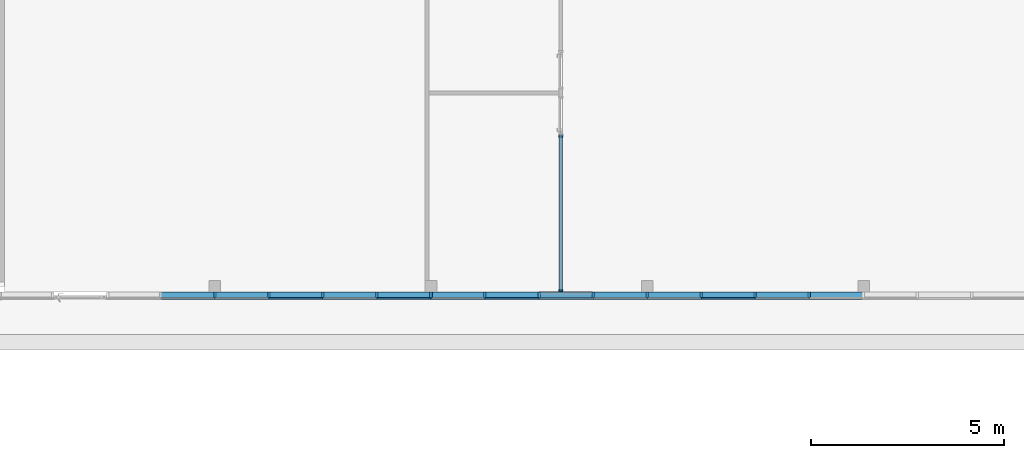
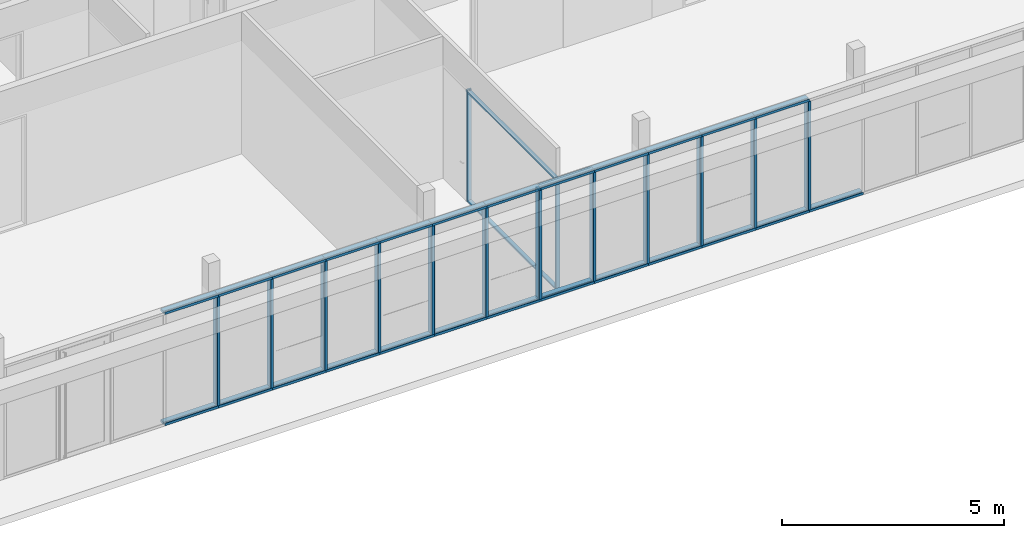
# One storey, part 25 of 240: 44 members, 2 elements without a shape of their own.
"""IFC2X3 building model written with IfcOpenShell, lengths in centimetres."""

from ifc_helpers import new_model, entity, si_unit, converted_unit, derived_unit, direction, frame, origin, origin_2d_with_axis, place, context, subcontext, project, spatial, polyline, rectangle, outline, extrude, source, transform, mapped, material, type_object, type_shapes, element, aggregate, save


model = new_model("IFC2X3")

# Units and contexts
model_context = context("Model", 3, precision=0.001, world=origin(), true_north=direction((6.12303176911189e-17, 1.0)))
body_context = subcontext(model_context, "Body", "Model", "MODEL_VIEW")
ifc_project = project(units=[si_unit("LENGTHUNIT", "METRE", prefix="CENTI"), si_unit("AREAUNIT", "SQUARE_METRE"), si_unit("VOLUMEUNIT", "CUBIC_METRE"), converted_unit("PLANEANGLEUNIT", "DEGREE", entity("IfcRatioMeasure", 0.0174532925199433), si_unit("PLANEANGLEUNIT", "RADIAN"), dimensions=[0, 0, 0, 0, 0, 0, 0]), si_unit("MASSUNIT", "GRAM", prefix="KILO"), derived_unit("MASSDENSITYUNIT", [(si_unit("MASSUNIT", "GRAM", prefix="KILO"), 1), (si_unit("LENGTHUNIT", "METRE"), -3)]), si_unit("TIMEUNIT", "SECOND"), si_unit("FREQUENCYUNIT", "HERTZ"), si_unit("THERMODYNAMICTEMPERATUREUNIT", "DEGREE_CELSIUS"), derived_unit("THERMALTRANSMITTANCEUNIT", [(si_unit("MASSUNIT", "GRAM", prefix="KILO"), 1), (si_unit("THERMODYNAMICTEMPERATUREUNIT", "KELVIN"), -1), (si_unit("TIMEUNIT", "SECOND"), -3)]), derived_unit("VOLUMETRICFLOWRATEUNIT", [(si_unit("LENGTHUNIT", "METRE"), 3), (si_unit("TIMEUNIT", "SECOND"), -1)]), si_unit("ELECTRICCURRENTUNIT", "AMPERE"), si_unit("ELECTRICVOLTAGEUNIT", "VOLT"), si_unit("POWERUNIT", "WATT"), si_unit("FORCEUNIT", "NEWTON", prefix="KILO"), si_unit("ILLUMINANCEUNIT", "LUX"), si_unit("LUMINOUSFLUXUNIT", "LUMEN"), si_unit("LUMINOUSINTENSITYUNIT", "CANDELA"), derived_unit("USERDEFINED", [(si_unit("MASSUNIT", "GRAM", prefix="KILO"), -1), (si_unit("LENGTHUNIT", "METRE"), -2), (si_unit("TIMEUNIT", "SECOND"), 3), (si_unit("LUMINOUSFLUXUNIT", "LUMEN"), 1)]), derived_unit("LINEARVELOCITYUNIT", [(si_unit("LENGTHUNIT", "METRE"), 1), (si_unit("TIMEUNIT", "SECOND"), -1)]), si_unit("PRESSUREUNIT", "PASCAL"), derived_unit("USERDEFINED", [(si_unit("LENGTHUNIT", "METRE"), -2), (si_unit("MASSUNIT", "GRAM", prefix="KILO"), 1), (si_unit("TIMEUNIT", "SECOND"), -2)])], contexts=[model_context])

# Site, building, storey
site_placement = place(None, frame((-2781.94577612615, 7442.24238424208, 0.0)))
site = spatial("IfcSite", under=ifc_project, at=site_placement, Name="Default", CompositionType="ELEMENT")
building_placement = place(site_placement, origin())
building = spatial("IfcBuilding", under=site, at=building_placement, CompositionType="ELEMENT")
storey_placement = place(building_placement, origin())
storey = spatial("IfcBuildingStorey", under=building, at=storey_placement, Name="N00 - COO", CompositionType="ELEMENT", Elevation=0.0)

# Curtain wall, members
curtain_wall_type_1 = type_object("IfcCurtainWallType", Name="Mur-rideau:07 - mur rideau trame 140 cm", PredefinedType="NOTDEFINED")
curtain_wall_1_placement = place(building_placement, origin())
curtain_wall_1 = element("IfcCurtainWall", 1, at=curtain_wall_1_placement, inside=storey, type_object=curtain_wall_type_1, Name="Mur-rideau:07 - mur rideau trame 140 cm", ObjectType="Mur-rideau:07 - mur rideau trame 140 cm")
ifc_material_1 = material(Name="Aluminium")
member_type_1 = type_object("IfcMemberType", Name="150 x 25mm Détails", PredefinedType="MEMBER")
shared_shape_1 = source(origin(), body_context, "Body", "SweptSolid", [
    extrude(outline(polyline([(-5.6666666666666, -3.24999999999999), (-3.66666666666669, -3.24999999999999), (-3.66666666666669, -0.868749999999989), (-0.166666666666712, -0.868749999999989), (-0.166666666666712, -3.25000000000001), (13.3333333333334, -3.25000000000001), (13.3333333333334, 3.24999999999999), (-0.16666666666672, 3.24999999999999), (-0.16666666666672, 0.868749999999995), (-3.66666666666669, 0.868749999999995), (-3.66666666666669, 3.25), (-5.6666666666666, 3.25), (-5.6666666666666, -3.24999999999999)])), frame((-3.24999999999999, -1.96666666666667, -140.0), z_axis=(0.0, 0.0, 1.0), x_axis=(0.0, -1.0, 0.0)), (0.0, 0.0, 1.0), 140.000000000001),
])
type_shapes(member_type_1, [shared_shape_1])
member_1_placement = place(building_placement, frame((-1530.299882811, -3046.51349958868, 312.5), z_axis=(1.0, 0.0, 0.0), x_axis=(0.0, 0.0, 1.0)))
member_1 = element("IfcMember", 2, at=member_1_placement, type_object=member_type_1, material=ifc_material_1, Name="Meneau rectangulaire:150 x 25mm Détails", ObjectType="Meneau rectangulaire:150 x 25mm Détails", context=body_context, shape_type="MappedRepresentation", body=[
    mapped(shared_shape_1, transform((0.0, 0.0, 0.0), scale=1.0)),
])
member_2_placement = place(building_placement, frame((-1670.299882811, -3046.51349958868, 312.5), z_axis=(1.0, 0.0, 0.0), x_axis=(0.0, 0.0, 1.0)))
member_2 = element("IfcMember", 3, at=member_2_placement, type_object=member_type_1, material=ifc_material_1, Name="Meneau rectangulaire:150 x 25mm Détails", ObjectType="Meneau rectangulaire:150 x 25mm Détails", context=body_context, shape_type="MappedRepresentation", body=[
    mapped(shared_shape_1, transform((0.0, 0.0, 0.0), scale=1.0)),
])
member_3_placement = place(building_placement, frame((-2230.299882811, -3046.51349958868, 312.5), z_axis=(1.0, 0.0, 0.0), x_axis=(0.0, 0.0, 1.0)))
member_3 = element("IfcMember", 4, at=member_3_placement, type_object=member_type_1, material=ifc_material_1, Name="Meneau rectangulaire:150 x 25mm Détails", ObjectType="Meneau rectangulaire:150 x 25mm Détails", context=body_context, shape_type="MappedRepresentation", body=[
    mapped(shared_shape_1, transform((0.0, 0.0, 0.0), scale=1.0)),
])
member_4_placement = place(building_placement, frame((-2090.299882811, -3046.51349958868, 312.5), z_axis=(1.0, 0.0, 0.0), x_axis=(0.0, 0.0, 1.0)))
member_4 = element("IfcMember", 5, at=member_4_placement, type_object=member_type_1, material=ifc_material_1, Name="Meneau rectangulaire:150 x 25mm Détails", ObjectType="Meneau rectangulaire:150 x 25mm Détails", context=body_context, shape_type="MappedRepresentation", body=[
    mapped(shared_shape_1, transform((0.0, 0.0, 0.0), scale=1.0)),
])
member_5_placement = place(building_placement, frame((-1950.299882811, -3046.51349958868, 312.5), z_axis=(1.0, 0.0, 0.0), x_axis=(0.0, 0.0, 1.0)))
member_5 = element("IfcMember", 6, at=member_5_placement, type_object=member_type_1, material=ifc_material_1, Name="Meneau rectangulaire:150 x 25mm Détails", ObjectType="Meneau rectangulaire:150 x 25mm Détails", context=body_context, shape_type="MappedRepresentation", body=[
    mapped(shared_shape_1, transform((0.0, 0.0, 0.0), scale=1.0)),
])
member_6_placement = place(building_placement, frame((-1810.299882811, -3046.51349958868, 312.5), z_axis=(1.0, 0.0, 0.0), x_axis=(0.0, 0.0, 1.0)))
member_6 = element("IfcMember", 7, at=member_6_placement, type_object=member_type_1, material=ifc_material_1, Name="Meneau rectangulaire:150 x 25mm Détails", ObjectType="Meneau rectangulaire:150 x 25mm Détails", context=body_context, shape_type="MappedRepresentation", body=[
    mapped(shared_shape_1, transform((0.0, 0.0, 0.0), scale=1.0)),
])
member_7_placement = place(building_placement, frame((-3070.299882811, -3046.51349958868, 312.5), z_axis=(1.0, 0.0, 0.0), x_axis=(0.0, 0.0, 1.0)))
member_7 = element("IfcMember", 8, at=member_7_placement, type_object=member_type_1, material=ifc_material_1, Name="Meneau rectangulaire:150 x 25mm Détails", ObjectType="Meneau rectangulaire:150 x 25mm Détails", context=body_context, shape_type="MappedRepresentation", body=[
    mapped(shared_shape_1, transform((0.0, 0.0, 0.0), scale=1.0)),
])
member_8_placement = place(building_placement, frame((-2930.299882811, -3046.51349958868, 312.5), z_axis=(1.0, 0.0, 0.0), x_axis=(0.0, 0.0, 1.0)))
member_8 = element("IfcMember", 9, at=member_8_placement, type_object=member_type_1, material=ifc_material_1, Name="Meneau rectangulaire:150 x 25mm Détails", ObjectType="Meneau rectangulaire:150 x 25mm Détails", context=body_context, shape_type="MappedRepresentation", body=[
    mapped(shared_shape_1, transform((0.0, 0.0, 0.0), scale=1.0)),
])
member_9_placement = place(building_placement, frame((-2790.299882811, -3046.51349958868, 312.5), z_axis=(1.0, 0.0, 0.0), x_axis=(0.0, 0.0, 1.0)))
member_9 = element("IfcMember", 10, at=member_9_placement, type_object=member_type_1, material=ifc_material_1, Name="Meneau rectangulaire:150 x 25mm Détails", ObjectType="Meneau rectangulaire:150 x 25mm Détails", context=body_context, shape_type="MappedRepresentation", body=[
    mapped(shared_shape_1, transform((0.0, 0.0, 0.0), scale=1.0)),
])
member_10_placement = place(building_placement, frame((-2650.299882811, -3046.51349958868, 312.5), z_axis=(1.0, 0.0, 0.0), x_axis=(0.0, 0.0, 1.0)))
member_10 = element("IfcMember", 11, at=member_10_placement, type_object=member_type_1, material=ifc_material_1, Name="Meneau rectangulaire:150 x 25mm Détails", ObjectType="Meneau rectangulaire:150 x 25mm Détails", context=body_context, shape_type="MappedRepresentation", body=[
    mapped(shared_shape_1, transform((0.0, 0.0, 0.0), scale=1.0)),
])
member_type_2 = type_object("IfcMemberType", Name="150 x 25mm Détails", PredefinedType="MEMBER")
shared_shape_2 = source(origin(), body_context, "Body", "SweptSolid", [
    extrude(outline(polyline([(-5.66666666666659, -3.25), (-3.66666666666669, -3.25), (-3.66666666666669, -0.868749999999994), (-0.166666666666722, -0.868749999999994), (-0.166666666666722, -3.25000000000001), (13.3333333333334, -3.24999999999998), (13.3333333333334, 3.25000000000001), (-0.166666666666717, 3.25000000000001), (-0.166666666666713, 0.868749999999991), (-3.66666666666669, 0.868749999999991), (-3.66666666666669, 3.24999999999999), (-5.66666666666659, 3.24999999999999), (-5.66666666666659, -3.25)])), frame((-3.24999999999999, -1.96666666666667, -140.0), z_axis=(0.0, 0.0, 1.0), x_axis=(0.0, -1.0, 0.0)), (0.0, 0.0, 1.0), 140.000000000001),
])
type_shapes(member_type_2, [shared_shape_2])
member_11_placement = place(building_placement, frame((-1530.299882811, -3046.51349958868, 0.0), z_axis=(-1.0, 0.0, 0.0), x_axis=(0.0, 0.0, -1.0)))
member_11 = element("IfcMember", 12, at=member_11_placement, type_object=member_type_2, material=ifc_material_1, Name="Meneau rectangulaire:150 x 25mm Détails", ObjectType="Meneau rectangulaire:150 x 25mm Détails", context=body_context, shape_type="MappedRepresentation", body=[
    mapped(shared_shape_2, transform((0.0, 0.0, 0.0), scale=1.0)),
])
member_12_placement = place(building_placement, frame((-1670.299882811, -3046.51349958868, 0.0), z_axis=(-1.0, 0.0, 0.0), x_axis=(0.0, 0.0, -1.0)))
member_12 = element("IfcMember", 13, at=member_12_placement, type_object=member_type_2, material=ifc_material_1, Name="Meneau rectangulaire:150 x 25mm Détails", ObjectType="Meneau rectangulaire:150 x 25mm Détails", context=body_context, shape_type="MappedRepresentation", body=[
    mapped(shared_shape_2, transform((0.0, 0.0, 0.0), scale=1.0)),
])
member_13_placement = place(building_placement, frame((-3070.299882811, -3046.51349958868, 0.0), z_axis=(-1.0, 0.0, 0.0), x_axis=(0.0, 0.0, -1.0)))
member_13 = element("IfcMember", 14, at=member_13_placement, type_object=member_type_2, material=ifc_material_1, Name="Meneau rectangulaire:150 x 25mm Détails", ObjectType="Meneau rectangulaire:150 x 25mm Détails", context=body_context, shape_type="MappedRepresentation", body=[
    mapped(shared_shape_2, transform((0.0, 0.0, 0.0), scale=1.0)),
])
member_14_placement = place(building_placement, frame((-2930.299882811, -3046.51349958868, 0.0), z_axis=(-1.0, 0.0, 0.0), x_axis=(0.0, 0.0, -1.0)))
member_14 = element("IfcMember", 15, at=member_14_placement, type_object=member_type_2, material=ifc_material_1, Name="Meneau rectangulaire:150 x 25mm Détails", ObjectType="Meneau rectangulaire:150 x 25mm Détails", context=body_context, shape_type="MappedRepresentation", body=[
    mapped(shared_shape_2, transform((0.0, 0.0, 0.0), scale=1.0)),
])
member_15_placement = place(building_placement, frame((-2790.299882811, -3046.51349958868, 0.0), z_axis=(-1.0, 0.0, 0.0), x_axis=(0.0, 0.0, -1.0)))
member_15 = element("IfcMember", 16, at=member_15_placement, type_object=member_type_2, material=ifc_material_1, Name="Meneau rectangulaire:150 x 25mm Détails", ObjectType="Meneau rectangulaire:150 x 25mm Détails", context=body_context, shape_type="MappedRepresentation", body=[
    mapped(shared_shape_2, transform((0.0, 0.0, 0.0), scale=1.0)),
])
member_16_placement = place(building_placement, frame((-2090.299882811, -3046.51349958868, 0.0), z_axis=(-1.0, 0.0, 0.0), x_axis=(0.0, 0.0, -1.0)))
member_16 = element("IfcMember", 17, at=member_16_placement, type_object=member_type_2, material=ifc_material_1, Name="Meneau rectangulaire:150 x 25mm Détails", ObjectType="Meneau rectangulaire:150 x 25mm Détails", context=body_context, shape_type="MappedRepresentation", body=[
    mapped(shared_shape_2, transform((0.0, 0.0, 0.0), scale=1.0)),
])
member_17_placement = place(building_placement, frame((-1950.299882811, -3046.51349958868, 0.0), z_axis=(-1.0, 0.0, 0.0), x_axis=(0.0, 0.0, -1.0)))
member_17 = element("IfcMember", 18, at=member_17_placement, type_object=member_type_2, material=ifc_material_1, Name="Meneau rectangulaire:150 x 25mm Détails", ObjectType="Meneau rectangulaire:150 x 25mm Détails", context=body_context, shape_type="MappedRepresentation", body=[
    mapped(shared_shape_2, transform((0.0, 0.0, 0.0), scale=1.0)),
])
member_18_placement = place(building_placement, frame((-1810.299882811, -3046.51349958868, 0.0), z_axis=(-1.0, 0.0, 0.0), x_axis=(0.0, 0.0, -1.0)))
member_18 = element("IfcMember", 19, at=member_18_placement, type_object=member_type_2, material=ifc_material_1, Name="Meneau rectangulaire:150 x 25mm Détails", ObjectType="Meneau rectangulaire:150 x 25mm Détails", context=body_context, shape_type="MappedRepresentation", body=[
    mapped(shared_shape_2, transform((0.0, 0.0, 0.0), scale=1.0)),
])
member_19_placement = place(building_placement, frame((-2370.299882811, -3046.51349958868, 0.0), z_axis=(-1.0, 0.0, 0.0), x_axis=(0.0, 0.0, -1.0)))
member_19 = element("IfcMember", 20, at=member_19_placement, type_object=member_type_2, material=ifc_material_1, Name="Meneau rectangulaire:150 x 25mm Détails", ObjectType="Meneau rectangulaire:150 x 25mm Détails", context=body_context, shape_type="MappedRepresentation", body=[
    mapped(shared_shape_2, transform((0.0, 0.0, 0.0), scale=1.0)),
])
member_20_placement = place(building_placement, frame((-3210.299882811, -3046.51349958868, 0.0), z_axis=(-1.0, 0.0, 0.0), x_axis=(0.0, 0.0, -1.0)))
member_20 = element("IfcMember", 21, at=member_20_placement, type_object=member_type_2, material=ifc_material_1, Name="Meneau rectangulaire:150 x 25mm Détails", ObjectType="Meneau rectangulaire:150 x 25mm Détails", context=body_context, shape_type="MappedRepresentation", body=[
    mapped(shared_shape_2, transform((0.0, 0.0, 0.0), scale=1.0)),
])
member_21_placement = place(building_placement, frame((-2230.299882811, -3046.51349958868, 0.0), z_axis=(-1.0, 0.0, 0.0), x_axis=(0.0, 0.0, -1.0)))
member_21 = element("IfcMember", 22, at=member_21_placement, type_object=member_type_2, material=ifc_material_1, Name="Meneau rectangulaire:150 x 25mm Détails", ObjectType="Meneau rectangulaire:150 x 25mm Détails", context=body_context, shape_type="MappedRepresentation", body=[
    mapped(shared_shape_2, transform((0.0, 0.0, 0.0), scale=1.0)),
])
member_type_3 = type_object("IfcMemberType", Name="150 x 25mm Détails", PredefinedType="MEMBER")
shared_shape_3 = source(origin(), body_context, "Body", "SweptSolid", [
    extrude(outline(polyline([(-5.6666666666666, -3.24999999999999), (-3.66666666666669, -3.24999999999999), (-3.66666666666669, -0.86874999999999), (-0.166666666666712, -0.86874999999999), (-0.166666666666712, -3.25000000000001), (13.3333333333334, -3.25000000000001), (13.3333333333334, 3.24999999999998), (-0.16666666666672, 3.24999999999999), (-0.16666666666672, 0.868749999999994), (-3.66666666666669, 0.868749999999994), (-3.66666666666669, 3.25), (-5.6666666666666, 3.25), (-5.6666666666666, -3.24999999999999)])), frame((0.0, -1.96666666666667, -299.5), z_axis=(0.0, 0.0, 1.0), x_axis=(0.0, -1.0, 0.0)), (0.0, 0.0, 1.0), 299.5),
])
type_shapes(member_type_3, [shared_shape_3])
member_22_placement = place(building_placement, frame((-1530.299882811, -3046.51349958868, 6.49999999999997), z_axis=(0.0, 0.0, -1.0), x_axis=(1.0, 0.0, 0.0)))
member_22 = element("IfcMember", 23, at=member_22_placement, type_object=member_type_3, material=ifc_material_1, Name="Meneau rectangulaire:150 x 25mm Détails", ObjectType="Meneau rectangulaire:150 x 25mm Détails", context=body_context, shape_type="MappedRepresentation", body=[
    mapped(shared_shape_3, transform((0.0, 0.0, 0.0), scale=1.0)),
])
member_23_placement = place(building_placement, frame((-1670.299882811, -3046.51349958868, 6.49999999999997), z_axis=(0.0, 0.0, -1.0), x_axis=(1.0, 0.0, 0.0)))
member_23 = element("IfcMember", 24, at=member_23_placement, type_object=member_type_3, material=ifc_material_1, Name="Meneau rectangulaire:150 x 25mm Détails", ObjectType="Meneau rectangulaire:150 x 25mm Détails", context=body_context, shape_type="MappedRepresentation", body=[
    mapped(shared_shape_3, transform((0.0, 0.0, 0.0), scale=1.0)),
])
member_24_placement = place(building_placement, frame((-2230.299882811, -3046.51349958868, 6.49999999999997), z_axis=(0.0, 0.0, -1.0), x_axis=(1.0, 0.0, 0.0)))
member_24 = element("IfcMember", 25, at=member_24_placement, type_object=member_type_3, material=ifc_material_1, Name="Meneau rectangulaire:150 x 25mm Détails", ObjectType="Meneau rectangulaire:150 x 25mm Détails", context=body_context, shape_type="MappedRepresentation", body=[
    mapped(shared_shape_3, transform((0.0, 0.0, 0.0), scale=1.0)),
])
member_25_placement = place(building_placement, frame((-2509.99987760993, -3046.51349958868, 6.49999999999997), z_axis=(0.0, 0.0, -1.0), x_axis=(1.0, 0.0, 0.0)))
member_25 = element("IfcMember", 26, at=member_25_placement, type_object=member_type_3, material=ifc_material_1, Name="Meneau rectangulaire:150 x 25mm Détails", ObjectType="Meneau rectangulaire:150 x 25mm Détails", context=body_context, shape_type="MappedRepresentation", body=[
    mapped(shared_shape_3, transform((0.0, 0.0, 0.0), scale=1.0)),
])
member_26_placement = place(building_placement, frame((-1810.299882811, -3046.51349958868, 6.49999999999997), z_axis=(0.0, 0.0, -1.0), x_axis=(1.0, 0.0, 0.0)))
member_26 = element("IfcMember", 27, at=member_26_placement, type_object=member_type_3, material=ifc_material_1, Name="Meneau rectangulaire:150 x 25mm Détails", ObjectType="Meneau rectangulaire:150 x 25mm Détails", context=body_context, shape_type="MappedRepresentation", body=[
    mapped(shared_shape_3, transform((0.0, 0.0, 0.0), scale=1.0)),
])
member_27_placement = place(building_placement, frame((-1950.299882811, -3046.51349958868, 6.49999999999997), z_axis=(0.0, 0.0, -1.0), x_axis=(1.0, 0.0, 0.0)))
member_27 = element("IfcMember", 28, at=member_27_placement, type_object=member_type_3, material=ifc_material_1, Name="Meneau rectangulaire:150 x 25mm Détails", ObjectType="Meneau rectangulaire:150 x 25mm Détails", context=body_context, shape_type="MappedRepresentation", body=[
    mapped(shared_shape_3, transform((0.0, 0.0, 0.0), scale=1.0)),
])
member_28_placement = place(building_placement, frame((-2090.299882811, -3046.51349958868, 6.49999999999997), z_axis=(0.0, 0.0, -1.0), x_axis=(1.0, 0.0, 0.0)))
member_28 = element("IfcMember", 29, at=member_28_placement, type_object=member_type_3, material=ifc_material_1, Name="Meneau rectangulaire:150 x 25mm Détails", ObjectType="Meneau rectangulaire:150 x 25mm Détails", context=body_context, shape_type="MappedRepresentation", body=[
    mapped(shared_shape_3, transform((0.0, 0.0, 0.0), scale=1.0)),
])
member_29_placement = place(building_placement, frame((-2230.299882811, -3046.51349958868, 6.49999999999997), z_axis=(0.0, 0.0, -1.0), x_axis=(1.0, 0.0, 0.0)))
member_29 = element("IfcMember", 30, at=member_29_placement, type_object=member_type_3, material=ifc_material_1, Name="Meneau rectangulaire:150 x 25mm Détails", ObjectType="Meneau rectangulaire:150 x 25mm Détails", context=body_context, shape_type="MappedRepresentation", body=[
    mapped(shared_shape_3, transform((0.0, 0.0, 0.0), scale=1.0)),
])
member_30_placement = place(building_placement, frame((-2370.299882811, -3046.51349958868, 6.49999999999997), z_axis=(0.0, 0.0, -1.0), x_axis=(1.0, 0.0, 0.0)))
member_30 = element("IfcMember", 31, at=member_30_placement, type_object=member_type_3, material=ifc_material_1, Name="Meneau rectangulaire:150 x 25mm Détails", ObjectType="Meneau rectangulaire:150 x 25mm Détails", context=body_context, shape_type="MappedRepresentation", body=[
    mapped(shared_shape_3, transform((0.0, 0.0, 0.0), scale=1.0)),
])
member_31_placement = place(building_placement, frame((-2510.299882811, -3046.51349958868, 6.49999999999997), z_axis=(0.0, 0.0, -1.0), x_axis=(1.0, 0.0, 0.0)))
member_31 = element("IfcMember", 32, at=member_31_placement, type_object=member_type_3, material=ifc_material_1, Name="Meneau rectangulaire:150 x 25mm Détails", ObjectType="Meneau rectangulaire:150 x 25mm Détails", context=body_context, shape_type="MappedRepresentation", body=[
    mapped(shared_shape_3, transform((0.0, 0.0, 0.0), scale=1.0)),
])
member_32_placement = place(building_placement, frame((-2790.299882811, -3046.51349958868, 6.49999999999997), z_axis=(0.0, 0.0, -1.0), x_axis=(1.0, 0.0, 0.0)))
member_32 = element("IfcMember", 33, at=member_32_placement, type_object=member_type_3, material=ifc_material_1, Name="Meneau rectangulaire:150 x 25mm Détails", ObjectType="Meneau rectangulaire:150 x 25mm Détails", context=body_context, shape_type="MappedRepresentation", body=[
    mapped(shared_shape_3, transform((0.0, 0.0, 0.0), scale=1.0)),
])
member_33_placement = place(building_placement, frame((-2930.299882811, -3046.51349958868, 6.49999999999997), z_axis=(0.0, 0.0, -1.0), x_axis=(1.0, 0.0, 0.0)))
member_33 = element("IfcMember", 34, at=member_33_placement, type_object=member_type_3, material=ifc_material_1, Name="Meneau rectangulaire:150 x 25mm Détails", ObjectType="Meneau rectangulaire:150 x 25mm Détails", context=body_context, shape_type="MappedRepresentation", body=[
    mapped(shared_shape_3, transform((0.0, 0.0, 0.0), scale=1.0)),
])
member_34_placement = place(building_placement, frame((-3070.299882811, -3046.51349958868, 6.49999999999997), z_axis=(0.0, 0.0, -1.0), x_axis=(1.0, 0.0, 0.0)))
member_34 = element("IfcMember", 35, at=member_34_placement, type_object=member_type_3, material=ifc_material_1, Name="Meneau rectangulaire:150 x 25mm Détails", ObjectType="Meneau rectangulaire:150 x 25mm Détails", context=body_context, shape_type="MappedRepresentation", body=[
    mapped(shared_shape_3, transform((0.0, 0.0, 0.0), scale=1.0)),
])
member_35_placement = place(building_placement, frame((-2650.299882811, -3046.51349958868, 6.49999999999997), z_axis=(0.0, 0.0, -1.0), x_axis=(1.0, 0.0, 0.0)))
member_35 = element("IfcMember", 36, at=member_35_placement, type_object=member_type_3, material=ifc_material_1, Name="Meneau rectangulaire:150 x 25mm Détails", ObjectType="Meneau rectangulaire:150 x 25mm Détails", context=body_context, shape_type="MappedRepresentation", body=[
    mapped(shared_shape_3, transform((0.0, 0.0, 0.0), scale=1.0)),
])

# Curtain wall, member
curtain_wall_type_2 = type_object("IfcCurtainWallType", PredefinedType="NOTDEFINED")
curtain_wall_2_placement = place(building_placement, origin())
curtain_wall_2 = element("IfcCurtainWall", 37, at=curtain_wall_2_placement, inside=storey, type_object=curtain_wall_type_2)
ifc_material_2 = material(Name="Plastique, blanc opaque")
member_type_4 = type_object("IfcMemberType", Name="100 x 50mm", PredefinedType="MEMBER")
shared_shape_4 = source(origin(), body_context, "Body", "SweptSolid", [
    extrude(rectangle(XDim=10.0, YDim=5.0, at=origin_2d_with_axis()), frame((-2.5, 0.0, -306.0), z_axis=(0.0, 0.0, 1.0), x_axis=(0.0, -1.0, 0.0)), (0.0, 0.0, 1.0), 306.0),
])
type_shapes(member_type_4, [shared_shape_4])
member_36_placement = place(building_placement, frame((-2174.19987968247, -3030.31349958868, 0.0), z_axis=(0.0, 0.0, -1.0), x_axis=(0.0, -1.0, 0.0)))
member_36 = element("IfcMember", 38, at=member_36_placement, type_object=member_type_4, material=ifc_material_2, Name="Meneau rectangulaire:100 x 50mm", ObjectType="Meneau rectangulaire:100 x 50mm", context=body_context, shape_type="MappedRepresentation", body=[
    mapped(shared_shape_4, transform((0.0, 0.0, 0.0), scale=1.0)),
])

# Member
member_type_5 = type_object("IfcMemberType", Name="150 x 25mm Détails", PredefinedType="MEMBER")
shared_shape_5 = source(origin(), body_context, "Body", "SweptSolid", [
    extrude(outline(polyline([(-5.66666666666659, -3.25), (-3.66666666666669, -3.25), (-3.66666666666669, -0.868749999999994), (-0.166666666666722, -0.868749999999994), (-0.166666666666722, -3.25000000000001), (13.3333333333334, -3.24999999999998), (13.3333333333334, 3.25000000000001), (-0.166666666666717, 3.25000000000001), (-0.166666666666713, 0.868749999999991), (-3.66666666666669, 0.868749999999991), (-3.66666666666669, 3.24999999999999), (-5.66666666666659, 3.24999999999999), (-5.66666666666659, -3.25)])), frame((-3.24999999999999, -1.96666666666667, -142.949994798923), z_axis=(0.0, 0.0, 1.0), x_axis=(0.0, -1.0, 0.0)), (0.0, 0.0, 1.0), 142.949994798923),
])
type_shapes(member_type_5, [shared_shape_5])
member_37_placement = place(building_placement, frame((-2513.24987760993, -3046.51349958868, 0.0), z_axis=(-1.0, 0.0, 0.0), x_axis=(0.0, 0.0, -1.0)))
member_37 = element("IfcMember", 39, at=member_37_placement, type_object=member_type_5, material=ifc_material_1, Name="Meneau rectangulaire:150 x 25mm Détails", ObjectType="Meneau rectangulaire:150 x 25mm Détails", context=body_context, shape_type="MappedRepresentation", body=[
    mapped(shared_shape_5, transform((0.0, 0.0, 0.0), scale=1.0)),
])

member_type_6 = type_object("IfcMemberType", Name="150 x 25mm Détails", PredefinedType="MEMBER")
shared_shape_6 = source(origin(), body_context, "Body", "SweptSolid", [
    extrude(outline(polyline([(-5.66666666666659, -3.25), (-3.66666666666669, -3.25), (-3.66666666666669, -0.868749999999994), (-0.166666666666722, -0.868749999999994), (-0.166666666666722, -3.25000000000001), (13.3333333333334, -3.24999999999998), (13.3333333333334, 3.25000000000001), (-0.166666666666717, 3.25000000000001), (-0.166666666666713, 0.868749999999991), (-3.66666666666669, 0.868749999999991), (-3.66666666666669, 3.24999999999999), (-5.66666666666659, 3.24999999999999), (-5.66666666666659, -3.25)])), frame((-3.24999999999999, -1.96666666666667, -143.249999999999), z_axis=(0.0, 0.0, 1.0), x_axis=(0.0, -1.0, 0.0)), (0.0, 0.0, 1.0), 143.249999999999),
])
type_shapes(member_type_6, [shared_shape_6])
member_38_placement = place(building_placement, frame((-2650.299882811, -3046.51349958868, 0.0), z_axis=(-1.0, 0.0, 0.0), x_axis=(0.0, 0.0, -1.0)))
member_38 = element("IfcMember", 40, at=member_38_placement, type_object=member_type_6, material=ifc_material_1, Name="Meneau rectangulaire:150 x 25mm Détails", ObjectType="Meneau rectangulaire:150 x 25mm Détails", context=body_context, shape_type="MappedRepresentation", body=[
    mapped(shared_shape_6, transform((0.0, 0.0, 0.0), scale=1.0)),
])

member_type_7 = type_object("IfcMemberType", Name="150 x 25mm Détails", PredefinedType="MEMBER")
shared_shape_7 = source(origin(), body_context, "Body", "SweptSolid", [
    extrude(outline(polyline([(-5.6666666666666, -3.24999999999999), (-3.66666666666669, -3.24999999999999), (-3.66666666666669, -0.868749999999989), (-0.166666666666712, -0.868749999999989), (-0.166666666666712, -3.25000000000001), (13.3333333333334, -3.25000000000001), (13.3333333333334, 3.24999999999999), (-0.16666666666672, 3.24999999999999), (-0.16666666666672, 0.868749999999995), (-3.66666666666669, 0.868749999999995), (-3.66666666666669, 3.25), (-5.6666666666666, 3.25), (-5.6666666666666, -3.24999999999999)])), frame((-3.24999999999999, -1.96666666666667, -142.949994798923), z_axis=(0.0, 0.0, 1.0), x_axis=(0.0, -1.0, 0.0)), (0.0, 0.0, 1.0), 142.949994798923),
])
type_shapes(member_type_7, [shared_shape_7])
member_39_placement = place(building_placement, frame((-2370.299882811, -3046.51349958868, 312.5), z_axis=(1.0, 0.0, 0.0), x_axis=(0.0, 0.0, 1.0)))
member_39 = element("IfcMember", 41, at=member_39_placement, type_object=member_type_7, material=ifc_material_1, Name="Meneau rectangulaire:150 x 25mm Détails", ObjectType="Meneau rectangulaire:150 x 25mm Détails", context=body_context, shape_type="MappedRepresentation", body=[
    mapped(shared_shape_7, transform((0.0, 0.0, 0.0), scale=1.0)),
])

member_type_8 = type_object("IfcMemberType", Name="150 x 25mm Détails", PredefinedType="MEMBER")
shared_shape_8 = source(origin(), body_context, "Body", "SweptSolid", [
    extrude(outline(polyline([(-5.6666666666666, -3.24999999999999), (-3.66666666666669, -3.24999999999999), (-3.66666666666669, -0.868749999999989), (-0.166666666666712, -0.868749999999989), (-0.166666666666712, -3.25000000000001), (13.3333333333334, -3.25000000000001), (13.3333333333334, 3.24999999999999), (-0.16666666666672, 3.24999999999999), (-0.16666666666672, 0.868749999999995), (-3.66666666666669, 0.868749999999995), (-3.66666666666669, 3.25), (-5.6666666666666, 3.25), (-5.6666666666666, -3.24999999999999)])), frame((-3.24999999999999, -1.96666666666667, -143.25), z_axis=(0.0, 0.0, 1.0), x_axis=(0.0, -1.0, 0.0)), (0.0, 0.0, 1.0), 143.25),
])
type_shapes(member_type_8, [shared_shape_8])
member_40_placement = place(building_placement, frame((-2507.049882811, -3046.51349958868, 312.5), z_axis=(1.0, 0.0, 0.0), x_axis=(0.0, 0.0, 1.0)))
member_40 = element("IfcMember", 42, at=member_40_placement, type_object=member_type_8, material=ifc_material_1, Name="Meneau rectangulaire:150 x 25mm Détails", ObjectType="Meneau rectangulaire:150 x 25mm Détails", context=body_context, shape_type="MappedRepresentation", body=[
    mapped(shared_shape_8, transform((0.0, 0.0, 0.0), scale=1.0)),
])

member_type_9 = type_object("IfcMemberType", Name="150 x 25mm Détails", PredefinedType="MEMBER")
shared_shape_9 = source(origin(), body_context, "Body", "SweptSolid", [
    extrude(outline(polyline([(-5.66666666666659, -3.25), (-3.66666666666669, -3.25), (-3.66666666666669, -0.868749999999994), (-0.166666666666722, -0.868749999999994), (-0.166666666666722, -3.25000000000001), (13.3333333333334, -3.24999999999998), (13.3333333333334, 3.25000000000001), (-0.166666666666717, 3.25000000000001), (-0.166666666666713, 0.868749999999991), (-3.66666666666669, 0.868749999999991), (-3.66666666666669, 3.24999999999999), (-5.66666666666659, 3.24999999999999), (-5.66666666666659, -3.25)])), frame((-3.24999999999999, -1.96666666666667, -140.049999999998), z_axis=(0.0, 0.0, 1.0), x_axis=(0.0, -1.0, 0.0)), (0.0, 0.0, 1.0), 140.049999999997),
])
type_shapes(member_type_9, [shared_shape_9])
member_41_placement = place(building_placement, frame((-2233.549882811, -3046.51349958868, 0.0), z_axis=(-1.0, 0.0, 0.0), x_axis=(0.0, 0.0, -1.0)))
member_41 = element("IfcMember", 43, at=member_41_placement, type_object=member_type_9, material=ifc_material_1, Name="Meneau rectangulaire:150 x 25mm Détails", ObjectType="Meneau rectangulaire:150 x 25mm Détails", context=body_context, shape_type="MappedRepresentation", body=[
    mapped(shared_shape_9, transform((0.0, 0.0, 0.0), scale=1.0)),
])

aggregate(curtain_wall_1, [member_11, member_22, member_1, member_2, member_12, member_23, member_3, member_24, member_37, member_25, member_13, member_14, member_15, member_38, member_4, member_5, member_6, member_39, member_16, member_17, member_18, member_7, member_8, member_9, member_10, member_40, member_19, member_26, member_27, member_28, member_29, member_30, member_31, member_32, member_33, member_34, member_35, member_41, member_20, member_21])

member_type_10 = type_object("IfcMemberType", Name="100 x 50mm", PredefinedType="MEMBER")
shared_shape_10 = source(origin(), body_context, "Body", "SweptSolid", [
    extrude(rectangle(XDim=10.0, YDim=5.0, at=origin_2d_with_axis()), frame((-2.5, 0.0, -403.656932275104), z_axis=(0.0, 0.0, 1.0), x_axis=(0.0, -1.0, 0.0)), (0.0, 0.0, 1.0), 403.656932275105),
])
type_shapes(member_type_10, [shared_shape_10])
member_42_placement = place(building_placement, frame((-2174.19987968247, -3025.31349958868, 306.0), z_axis=(0.0, -1.0, 0.0), x_axis=(0.0, 0.0, 1.0)))
member_42 = element("IfcMember", 44, at=member_42_placement, type_object=member_type_10, material=ifc_material_2, Name="Meneau rectangulaire:100 x 50mm", ObjectType="Meneau rectangulaire:100 x 50mm", context=body_context, shape_type="MappedRepresentation", body=[
    mapped(shared_shape_10, transform((0.0, 0.0, 0.0), scale=1.0)),
])

member_type_11 = type_object("IfcMemberType", Name="100 x 50mm", PredefinedType="MEMBER")
shared_shape_11 = source(origin(), body_context, "Body", "SweptSolid", [
    extrude(rectangle(XDim=10.0, YDim=5.0, at=origin_2d_with_axis()), frame((-2.5, 0.0, -395.156932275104), z_axis=(0.0, 0.0, 1.0), x_axis=(0.0, -1.0, 0.0)), (0.0, 0.0, 1.0), 395.156932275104),
])
type_shapes(member_type_11, [shared_shape_11])
member_43_placement = place(building_placement, frame((-2174.19987968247, -2630.15656731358, 0.0), z_axis=(0.0, 1.0, 0.0), x_axis=(0.0, 0.0, -1.0)))
member_43 = element("IfcMember", 45, at=member_43_placement, type_object=member_type_11, material=ifc_material_2, Name="Meneau rectangulaire:100 x 50mm", ObjectType="Meneau rectangulaire:100 x 50mm", context=body_context, shape_type="MappedRepresentation", body=[
    mapped(shared_shape_11, transform((0.0, 0.0, 0.0), scale=1.0)),
])

member_type_12 = type_object("IfcMemberType", Name="100 x 50mm", PredefinedType="MEMBER")
shared_shape_12 = source(origin(), body_context, "Body", "SweptSolid", [
    extrude(rectangle(XDim=10.0, YDim=5.0, at=origin_2d_with_axis()), frame((-2.5, 0.0, -309.500000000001), z_axis=(0.0, 0.0, 1.0), x_axis=(0.0, -1.0, 0.0)), (0.0, 0.0, 1.0), 309.500000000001),
])
type_shapes(member_type_12, [shared_shape_12])
member_44_placement = place(building_placement, frame((-2174.19987968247, -2625.15656731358, 309.500000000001), z_axis=(0.0, 0.0, 1.0), x_axis=(0.0, 1.0, 0.0)))
member_44 = element("IfcMember", 46, at=member_44_placement, type_object=member_type_12, material=ifc_material_2, Name="Meneau rectangulaire:100 x 50mm", ObjectType="Meneau rectangulaire:100 x 50mm", context=body_context, shape_type="MappedRepresentation", body=[
    mapped(shared_shape_12, transform((0.0, 0.0, 0.0), scale=1.0)),
])

aggregate(curtain_wall_2, [member_42, member_36, member_43, member_44])

save(model, "model.ifc")
